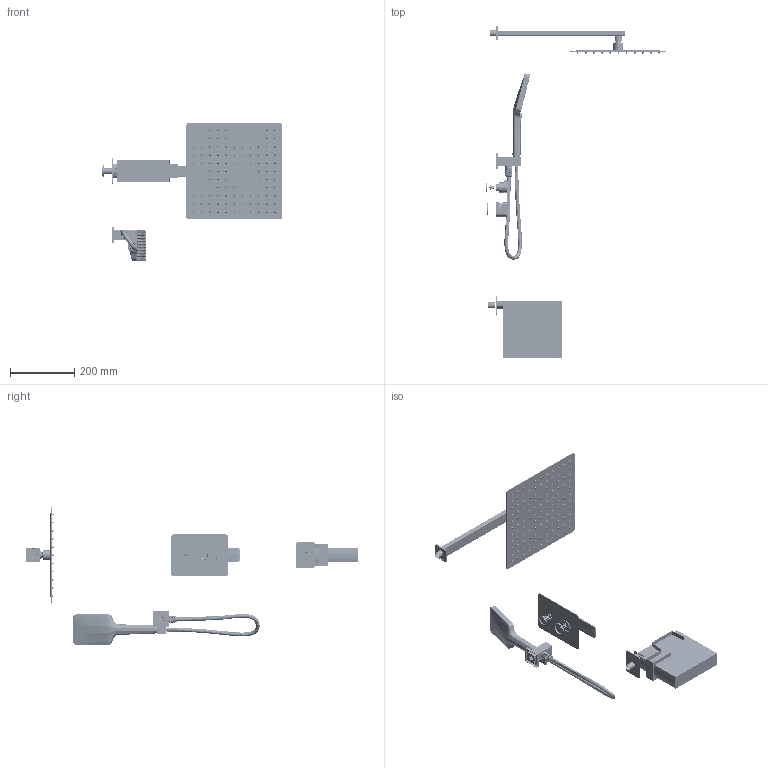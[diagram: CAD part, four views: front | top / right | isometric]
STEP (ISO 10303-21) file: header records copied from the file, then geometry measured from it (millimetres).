
FILE_DESCRIPTION((''),'2;1');
FILE_NAME('OL-939003B-3D-250613_ASM','2025-06-13T08:38:50',('GL-JISHU1'),(''),'CREO PARAMETRIC BY PTC INC, 2021063','CREO PARAMETRIC BY PTC INC, 2021063','');
FILE_SCHEMA(('AUTOMOTIVE_DESIGN { 1 0 10303 214 1 1 1 1 }'));
Products named in the file (254): 0002_1_AF0; 3JQ-001036-NAA_1_AF0; 3ZT-939017B-AXS_ASM_1_AF0_ASM; 105065_79_1_1_AF0; 004009_AF0_7_1_1_AF0; 10A008-1_6_1_1_AF0; 003005_9_1_1_AF0; 004011_AF0_6_1_1_AF0; 004011_AF1_6_1_1_AF0; 104085_18_1_1_AF0; 002032_6_1_1_AF0; D26-1_ASM_43_ASM_1_ASM_1_AF0_ASM; D26-1-3D_ASM_1_ASM_1_AF0_ASM; 3FX-001112-MAA_ASM_1_AF0_ASM; 3YG-001056-AJJ_1_AF0; 5TT-001037-ACR_1_AF0; 3FX-001038-MMA-1_1_AF0; 3FX-001038-MAA-2_1; 3FX-001038-MAA_ASM_1_AF0_ASM; 5TT-001117-ACR_1_AF0; 3YG-001009-AJJ_1; 3ZG-010013-GCR_1; 3BS-181003-HCR_2; 3LS-001063-JAA_1; 3SN-001001-MCR_1; 3MB-001079-KAA_1_AF0; 3MB-001078-1-KAA_1_AF0; 3MB-001072-KCR-2_1_AF0; 3MB-001079-KCR_ASM_1_AF0_ASM; 3JQ-001558-NAA_1_AF0; 3JQ-001144-NAA_1_AF0; 3BS-261001A-HCR_1; 0003_1; 3LS-001806-JAA_1_AF0; 3LS-001806-JAA_1_AF1; 3LS-001806-JAA_1_AF2; 3LS-001806-JAA_1_AF3; 3LS-001806-JAA_1_AF4; 3LS-001806-JAA_1_AF5; GL-939003B-1_ASM_1_AF0_ASM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
Assembly tree (380 placements, depth 8):
  OL-939003B-3D-250613_ASM
    GL-939003B_ASM_1_AF0_ASM
      GL-939003B-1_ASM_1_AF0_ASM
        3ZT-939017B-AXS_ASM_1_AF0_ASM
          0002_1_AF0
          3JQ-001036-NAA_1_AF0
        3FX-001112-MAA_ASM_1_AF0_ASM
          D26-1-3D_ASM_1_ASM_1_AF0_ASM
            D26-1_ASM_43_ASM_1_ASM_1_AF0_ASM
              105065_79_1_1_AF0
              004009_AF0_7_1_1_AF0
              10A008-1_6_1_1_AF0
              003005_9_1_1_AF0
              004011_AF0_6_1_1_AF0
              004011_AF1_6_1_1_AF0
              104085_18_1_1_AF0
              002032_6_1_1_AF0
        3YG-001056-AJJ_1_AF0
        5TT-001037-ACR_1_AF0
        3FX-001038-MAA_ASM_1_AF0_ASM
          3FX-001038-MMA-1_1_AF0
          3FX-001038-MAA-2_1
        5TT-001117-ACR_1_AF0
        3YG-001009-AJJ_1
        3ZG-010013-GCR_1
        3BS-181003-HCR_2
        3LS-001063-JAA_1  x2
        3SN-001001-MCR_1  x2
        3MB-001079-KCR_ASM_1_AF0_ASM
          3MB-001079-KAA_1_AF0
          3MB-001078-1-KAA_1_AF0
          3MB-001072-KCR-2_1_AF0
        3JQ-001558-NAA_1_AF0
        3JQ-001144-NAA_1_AF0
        3BS-261001A-HCR_1
        0003_1
        3LS-001806-JAA_1_AF0
        3LS-001806-JAA_1_AF1
        3LS-001806-JAA_1_AF2
        3LS-001806-JAA_1_AF3
        3LS-001806-JAA_1_AF4
        3LS-001806-JAA_1_AF5
      5SZ-001154-BCR_ASM_1_AF0_ASM
        4JT-001416-AJJ_1_AF0
        3JQ-001079-NAA_1  x2
        5SZ-001058-BCR_1
        5MB-001148-KCR_1_AF0
        3LS-001024-JAA_1  x2
        3LS-001396-JAA_1  x2
        3JQ-001519-NAA_1
        3WK-001004-ACR_1
        3WD-001025-MAA_1
      5ZB-001012-ACR_1_AF0
      3TG-001028-KCR_ASM_1_AF0_ASM
        400-10001_1
        0004_1
        0005_1_AF0
        0006_1
        0007_1
        3JQ-001056-NAA_1
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Bounding box: 564.8 x 1037.25 x 429.96 mm (x, y, z)
Volume: 692086.3 mm3; surface area: 1032785.4 mm2
Topology: 341 solids, 372 shells, 13125 faces, 34327 edges, 23218 vertices
Faces by surface type: plane 3673, bspline 3257, cylinder 2652, cone 2641, torus 777, sphere 66, extrusion 59
Entity records: 541569 total; most frequent: CARTESIAN_POINT 238797, DIRECTION 49535, ORIENTED_EDGE 48505, EDGE_CURVE 24329, AXIS2_PLACEMENT_3D 19729, VERTEX_POINT 15535, EDGE_LOOP 11376, FACE_OUTER_BOUND 9353
